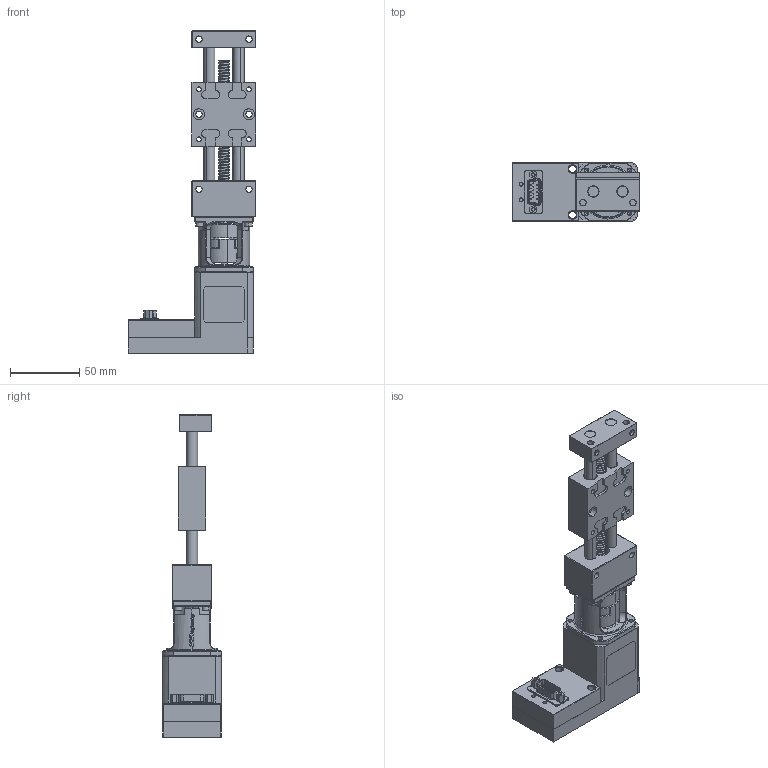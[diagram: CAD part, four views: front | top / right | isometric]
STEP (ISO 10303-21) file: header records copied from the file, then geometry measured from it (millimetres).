
FILE_DESCRIPTION (( 'STEP AP203' ), '1' );
FILE_NAME ('MPT5008-AK-S.STEP', '2016-02-23T14:39:48', ( '' ), ( '' ), 'SwSTEP 2.0', 'SolidWorks 2014', '' );
FILE_SCHEMA (( 'CONFIG_CONTROL_DESIGN' ));
Length unit declared in the file: millimetre
Products named in the file (4): MPT5008-000-01-Festteil-AK; MPT08-000-02-Schlitten-komplett; GSM17-Schrittmotor-mit-Steuerung; MPT5008-AK-S
Assembly tree (3 placements, depth 2):
  MPT5008-AK-S
    MPT5008-000-01-Festteil-AK
    MPT08-000-02-Schlitten-komplett
    GSM17-Schrittmotor-mit-Steuerung
Bounding box: 92 x 42 x 232 mm (x, y, z)
Volume: 223848.5 mm3; surface area: 83167.2 mm2
Topology: 3 solids, 34 shells, 2002 faces, 5310 edges, 3424 vertices
Faces by surface type: cylinder 748, plane 625, bspline 325, cone 221, torus 68, sphere 15
Entity records: 112715 total; most frequent: CARTESIAN_POINT 67080, ORIENTED_EDGE 10472, DIRECTION 7814, EDGE_CURVE 5236, VERTEX_POINT 3409, AXIS2_PLACEMENT_3D 2918, EDGE_LOOP 2225, FACE_OUTER_BOUND 2002
